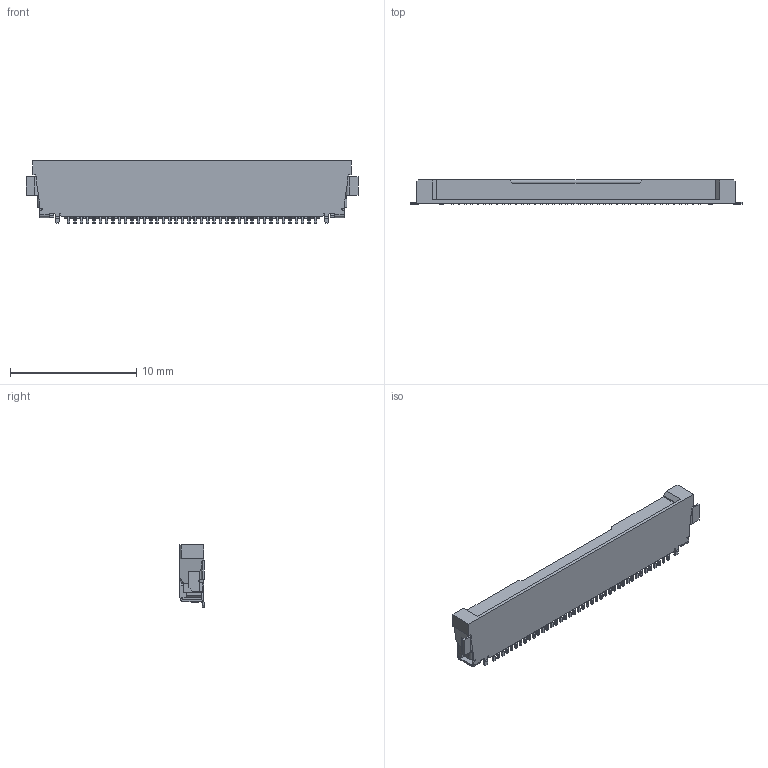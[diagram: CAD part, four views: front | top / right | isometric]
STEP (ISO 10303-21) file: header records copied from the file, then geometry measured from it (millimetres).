
FILE_DESCRIPTION (( 'STEP AP203' ), '1' );
FILE_NAME ('20535-040ExxxC Assy STEP R4 ALL.STEP', '2013-03-07T09:42:01', ( ' ' ), ( ' ' ), 'SwSTEP 2.0', 'SolidWorks 2011', '' );
FILE_SCHEMA (( 'CONFIG_CONTROL_DESIGN' ));
Length unit declared in the file: millimetre
Products named in the file (1): 20535-040ExxxC Assy STEP R4 ALL
Bounding box: 26.25 x 1.9 x 4.95 mm (x, y, z)
Volume: 183.1 mm3; surface area: 382.6 mm2
Topology: 1 solids, 1 shells, 1820 faces, 5138 edges, 3314 vertices
Faces by surface type: plane 1316, cylinder 420, cone 84
Entity records: 58265 total; most frequent: CARTESIAN_POINT 10573, ORIENTED_EDGE 10276, DIRECTION 9602, EDGE_CURVE 5138, LINE 4120, VECTOR 4120, VERTEX_POINT 3314, AXIS2_PLACEMENT_3D 2741
